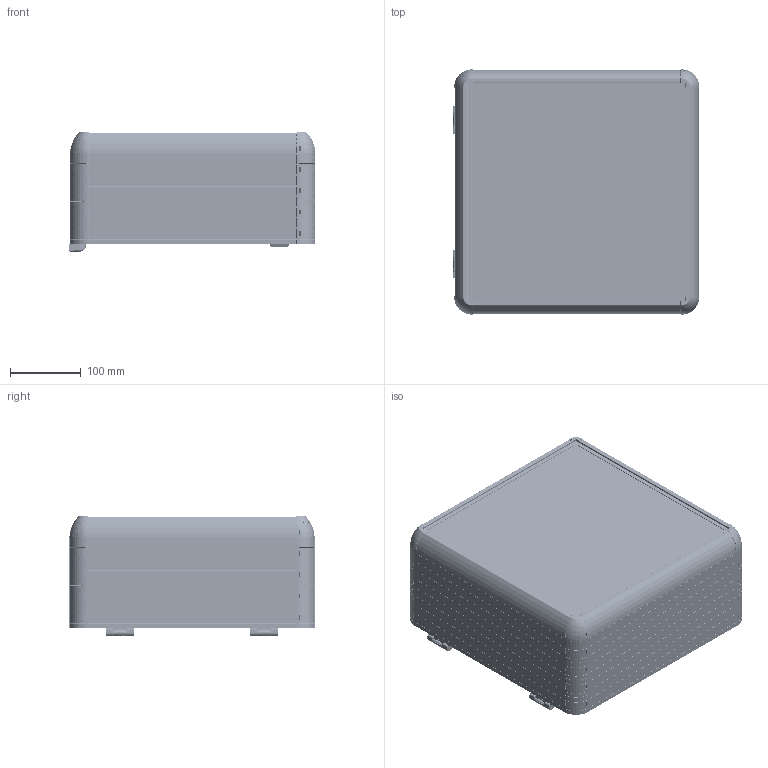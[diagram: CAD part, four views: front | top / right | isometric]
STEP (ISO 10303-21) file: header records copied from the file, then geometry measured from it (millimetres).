
FILE_DESCRIPTION (( 'STEP AP214' ), '1' );
FILE_NAME ('1500-0004.STEP', '2022-09-01T08:15:57', ( '' ), ( '' ), 'SwSTEP 2.0', 'SolidWorks 2022', '' );
FILE_SCHEMA (( 'AUTOMOTIVE_DESIGN' ));
Length unit declared in the file: millimetre
Products named in the file (5): ECO1500-0000; 300X300; 1500-0004; HPECO-150-001_295; ARKA_KAPAK_300X300
Assembly tree (10 placements, depth 2):
  1500-0004
    300X300
    ARKA_KAPAK_300X300
    HPECO-150-001_295  x4
    ECO1500-0000  x4
Bounding box: 349.03 x 347 x 169.15 mm (x, y, z)
Volume: 1694890.4 mm3; surface area: 1477661.7 mm2
Topology: 38 solids, 88 shells, 10509 faces, 27364 edges, 16590 vertices
Faces by surface type: plane 3481, cylinder 2888, bspline 2772, cone 766, torus 468, sphere 134
Entity records: 199995 total; most frequent: CARTESIAN_POINT 53694, ORIENTED_EDGE 23118, DIRECTION 19657, EDGE_CURVE 11559, AXIS2_PLACEMENT_3D 7310, VERTEX_POINT 7095, LINE 5037, VECTOR 5037
